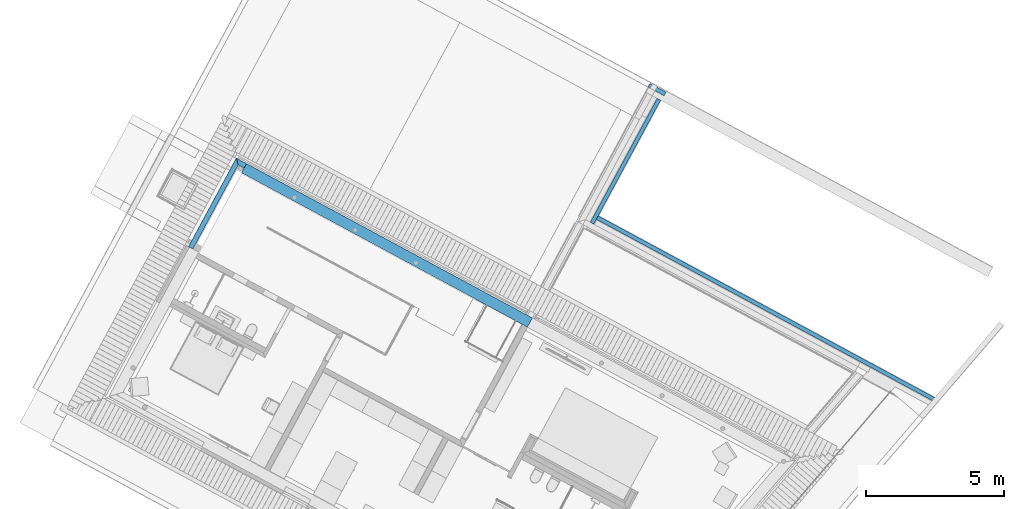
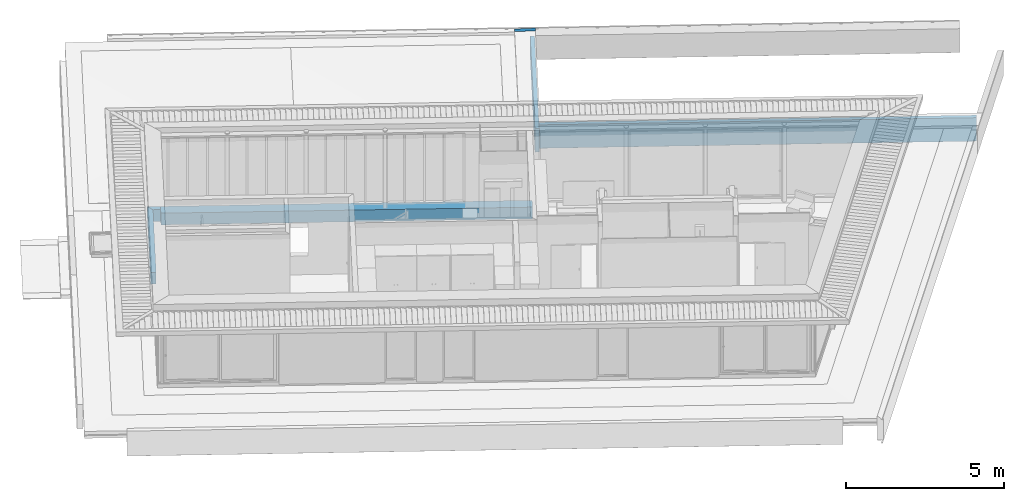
# One storey, part 5 of 41: 6 walls.
"""IFC2X3 building model written with IfcOpenShell, lengths in metres."""

from ifc_helpers import new_model, entity, si_unit, converted_unit, derived_unit, money_unit, direction, frame, origin_with_axes, place, context, subcontext, project, spatial, polyline, outline, extrude, boolean, faceted_brep, material, layer, layer_set, layer_usage, type_object, element, save


model = new_model("IFC2X3")

# Units and contexts
model_context = context("Model", 3, precision=1e-05, world=origin_with_axes(), true_north=direction((0.0, 1.0)))
body_context = subcontext(model_context, "Body", "Model", "MODEL_VIEW")
ifc_project = project(units=[si_unit("LENGTHUNIT", "METRE"), si_unit("AREAUNIT", "SQUARE_METRE"), si_unit("VOLUMEUNIT", "CUBIC_METRE"), converted_unit("PLANEANGLEUNIT", "DEGREE", entity("IfcPlaneAngleMeasure", 0.0174532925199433), si_unit("PLANEANGLEUNIT", "RADIAN"), dimensions=[0, 0, 0, 0, 0, 0, 0]), money_unit("EUR"), converted_unit("TIMEUNIT", "Year", entity("IfcTimeMeasure", 31556926.0), si_unit("TIMEUNIT", "SECOND"), dimensions=[0, 0, 1, 0, 0, 0, 0]), si_unit("MASSUNIT", "GRAM", prefix="KILO"), si_unit("THERMODYNAMICTEMPERATUREUNIT", "DEGREE_CELSIUS"), si_unit("LUMINOUSINTENSITYUNIT", "LUMEN"), si_unit("ENERGYUNIT", "JOULE", prefix="MEGA"), derived_unit("THERMALCONDUCTANCEUNIT", [(si_unit("POWERUNIT", "WATT"), 1), (si_unit("LENGTHUNIT", "METRE"), -1), (si_unit("THERMODYNAMICTEMPERATUREUNIT", "KELVIN"), -1)]), derived_unit("SPECIFICHEATCAPACITYUNIT", [(si_unit("ENERGYUNIT", "JOULE"), 1), (si_unit("MASSUNIT", "GRAM", prefix="KILO"), -1), (si_unit("THERMODYNAMICTEMPERATUREUNIT", "KELVIN"), -1)]), derived_unit("MASSDENSITYUNIT", [(si_unit("MASSUNIT", "GRAM", prefix="KILO"), 1), (si_unit("VOLUMEUNIT", "CUBIC_METRE"), -1)])], contexts=[model_context])

# Site, building, storey
site_placement = place(None, frame((-3.949935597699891, 1.740105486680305, 0.0), z_axis=(0.0, 0.0, 1.0), x_axis=(0.8799804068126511, -0.475009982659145, 0.0)))
site = spatial("IfcSite", under=ifc_project, at=site_placement, Name="Gelände", CompositionType="ELEMENT")
building_placement = place(site_placement, origin_with_axes())
building = spatial("IfcBuilding", under=site, at=building_placement, Name="Gebäude", CompositionType="ELEMENT")
storey_placement = place(building_placement, frame((0.0, 0.0, 4.55), z_axis=(0.0, 0.0, 1.0), x_axis=(1.0, 0.0, 0.0)))
storey = spatial("IfcBuildingStorey", under=building, at=storey_placement, Name="Staffelgeschoss", CompositionType="ELEMENT", Elevation=4.55)

# Walls
ifc_material_1 = material(Name="_SIWH - Dämmung, weich Mineralwolle")
ifc_layer_1 = layer(ifc_material_1, 0.18, ventilated="UNKNOWN")
ifc_material_2 = material(Name="_SIWH - Beton, Stahlbeton")
ifc_layer_2 = layer(ifc_material_2, 0.2, ventilated="UNKNOWN")
ifc_layer_set_1 = layer_set([ifc_layer_1, ifc_layer_2], Name="_SIWH - WA | Stb. 20+WD 18 | 38cm")
ifc_layer_usage_1 = layer_usage(ifc_layer_set_1, "AXIS2", "POSITIVE", -0.18)
wall_type_1 = type_object("IfcWallType", Name="_SIWH - WA | Stb. 20+WD 18 | 38cm 380", PredefinedType="NOTDEFINED")
wall_1_placement = place(storey_placement, frame((17.36749037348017, 10.85780061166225, -0.4500000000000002), z_axis=(0.0, 0.0, 1.0), x_axis=(-1.0, 0.0, 0.0)))
element("IfcWallStandardCase", 1, at=wall_1_placement, inside=storey, type_object=wall_type_1, material=ifc_layer_usage_1, Name="A-Wand051", ObjectType="NOTDEFINED", context=body_context, shape_type="SweptSolid", body=[
    extrude(outline(polyline([(0.0, -0.1799999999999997), (11.77000893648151, -0.1799999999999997), (11.77000893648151, 0.2000000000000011), (0.0, 0.2000000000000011), (0.0, -0.1799999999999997)])), origin_with_axes(), (0.0, 0.0, 1.0), 0.4500000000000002),
])
ifc_material_3 = material(Name="_SIWH - Dämmung, weich Mineralwolle, hohe Priorität")
ifc_layer_3 = layer(ifc_material_3, 0.18, ventilated="UNKNOWN")
ifc_layer_set_2 = layer_set([ifc_layer_3], Name="_SIWH - Dämmung, weich Mineralwolle, hohe Priorität 0.18")
ifc_layer_usage_2 = layer_usage(ifc_layer_set_2, "AXIS2", "NEGATIVE", 0.0)
wall_type_2 = type_object("IfcWallType", Name="_SIWH - Dämmung, weich Mineralwolle, hohe Priorität 180", PredefinedType="NOTDEFINED")
wall_2_placement = place(storey_placement, frame((5.357481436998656, 10.85780061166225, -0.4500000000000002), z_axis=(0.0, 0.0, 1.0), x_axis=(0.0, -1.0, 0.0)))
element("IfcWallStandardCase", 2, at=wall_2_placement, inside=storey, type_object=wall_type_2, material=ifc_layer_usage_2, Name="A-Wand065", ObjectType="NOTDEFINED", context=body_context, shape_type="SweptSolid", body=[
    extrude(outline(polyline([(-0.1800000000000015, -0.1799999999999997), (3.464741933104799, -0.1799999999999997), (3.464741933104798, 0.0), (0.0, 0.0), (-0.1800000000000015, -0.1799999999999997)])), origin_with_axes(), (0.0, 0.0, 1.0), 0.4500000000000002),
])
ifc_material_4 = material(Name="_SIWH - Metall, Aluminium")
wall_type_3 = type_object("IfcWallType", Name="_SIWH - Attikablech2 Achse3 EG 660 x 65", PredefinedType="NOTDEFINED")
wall_3_placement = place(storey_placement, frame((17.36746820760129, 20.38528216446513, -0.3999999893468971), z_axis=(0.0, 0.0, 1.0), x_axis=(-4.180477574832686e-06, 0.9999999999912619, 0.0)))
element("IfcWall", 3, at=wall_3_placement, inside=storey, type_object=wall_type_3, material=ifc_material_4, Name="Wand-028", ObjectType="NOTDEFINED", context=body_context, shape_type="SweptSolid", body=[
    extrude(outline(polyline([(0.3699999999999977, 0.334999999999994), (0.3699999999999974, 0.3999999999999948), (-0.2900000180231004, 0.3768999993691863), (-0.2900000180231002, 0.334999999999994), (-0.2880000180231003, 0.334999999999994), (-0.2880000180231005, 0.3749687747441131), (0.3679999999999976, 0.3979287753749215), (0.3679999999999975, 0.334999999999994), (0.3699999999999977, 0.334999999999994)])), frame((0.0, 0.0, 0.0), z_axis=(-1.0, 0.0, 0.0), x_axis=(0.0, -1.0, 0.0)), (0.0, 0.0, -1.0), 0.1481523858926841),
])
ifc_material_5 = material(Name="_SIWH - Beton, Stahlbeton Fertigteil")
wall_type_4 = type_object("IfcWallType", Name="_SIWH - Terrasse Luftbalken 140 x 915", PredefinedType="NOTDEFINED")
wall_4_placement = place(storey_placement, frame((17.36746820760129, 20.18527610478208, -0.3999999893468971), z_axis=(0.0, 0.0, 1.0), x_axis=(0.0, -1.0, 0.0)))
element("IfcWall", 4, at=wall_4_placement, inside=storey, type_object=wall_type_4, material=ifc_material_5, Name="Wand-027", ObjectType="NOTDEFINED", context=body_context, shape_type="SweptSolid", body=[
    extrude(outline(polyline([(0.3400000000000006, 0.3349999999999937), (0.2, 0.3349999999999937), (0.2000000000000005, -0.5699999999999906), (0.2100000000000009, -0.5799999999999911), (0.2550000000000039, -0.5799999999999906), (0.2700000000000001, -0.5799999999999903), (0.2849999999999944, -0.5799999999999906), (0.330000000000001, -0.5799999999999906), (0.340000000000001, -0.5699999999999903), (0.3400000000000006, 0.3349999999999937)])), frame((0.0, 0.0, 0.0), z_axis=(1.0, 0.0, 0.0), x_axis=(0.0, 1.0, 0.0)), (0.0, 0.0, 1.0), 5.102229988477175),
])
wall_5_placement = place(storey_placement, frame((17.36746820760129, 15.0830461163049, -0.3999999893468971), z_axis=(0.0, 0.0, 1.0), x_axis=(1.0, 0.0, 0.0)))
element("IfcWall", 5, at=wall_5_placement, inside=storey, type_object=wall_type_4, material=ifc_material_5, Name="Wand-027", ObjectType="NOTDEFINED", context=body_context, shape_type="CSG", body=[
    boolean("DIFFERENCE", extrude(outline(polyline([(0.3400000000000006, 0.3349999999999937), (0.2, 0.3349999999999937), (0.2000000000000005, -0.5699999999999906), (0.2100000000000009, -0.5799999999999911), (0.2550000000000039, -0.5799999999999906), (0.2700000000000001, -0.5799999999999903), (0.2849999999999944, -0.5799999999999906), (0.330000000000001, -0.5799999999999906), (0.340000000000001, -0.5699999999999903), (0.3400000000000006, 0.3349999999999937)])), frame((0.0, 0.0, 0.0), z_axis=(1.0, 0.0, 0.0), x_axis=(0.0, 1.0, 0.0)), (0.0, 0.0, 1.0), 14.19049326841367), faceted_brep([(0.3399999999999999, 0.2000000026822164, 0.3349999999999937), (0.3399999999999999, 0.3399999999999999, 0.3349999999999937), (0.0, 0.3399999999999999, 0.3349999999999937), (0.0, 0.1999999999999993, 0.3349999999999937), (0.3399999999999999, 0.3400000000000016, -0.5699999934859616), (0.3399999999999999, 0.2000000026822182, -0.5699999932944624), (0.0, 0.3400000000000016, -0.5699999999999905), (0.0, 0.3300000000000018, -0.5799999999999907), (0.0, 0.2849999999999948, -0.5799999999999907), (0.0, 0.2699999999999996, -0.5799999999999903), (0.0, 0.2550000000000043, -0.5799999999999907), (0.0, 0.2100000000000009, -0.5799999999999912), (0.0, 0.2000000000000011, -0.5699999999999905), (0.3300000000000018, 0.3300000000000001, -0.5799999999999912), (0.3300000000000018, 0.2099999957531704, -0.5799999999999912), (0.3300000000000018, 0.2550000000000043, -0.5799999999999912), (0.3300000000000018, 0.2699999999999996, -0.5799999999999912), (0.3300000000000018, 0.2849999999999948, -0.5799999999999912)], [[[0, 1, 2, 3]], [[4, 1, 0, 5]], [[1, 4, 6, 2]], [[3, 2, 6, 7, 8, 9, 10, 11, 12]], [[5, 0, 3, 12]], [[13, 4, 5, 14, 15, 16, 17]], [[4, 13, 7, 6]], [[13, 17, 8, 7]], [[17, 16, 9, 8]], [[16, 15, 10, 9]], [[15, 14, 11, 10]], [[14, 5, 12, 11]]])),
])
ifc_layer_4 = layer(ifc_material_1, 0.18, ventilated="UNKNOWN")
ifc_layer_set_3 = layer_set([ifc_layer_4], Name="_SIWH - Dämmung, weich Mineralwolle 0.18")
ifc_layer_usage_3 = layer_usage(ifc_layer_set_3, "AXIS2", "NEGATIVE", 0.0)
wall_type_5 = type_object("IfcWallType", Name="_SIWH - Dämmung, weich Mineralwolle 180", PredefinedType="NOTDEFINED")
wall_6_placement = place(storey_placement, frame((5.597481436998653, 10.85780061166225, -0.4500000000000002), z_axis=(0.0, 0.0, 1.0), x_axis=(-1.0, 0.0, 0.0)))
element("IfcWallStandardCase", 6, at=wall_6_placement, inside=storey, type_object=wall_type_5, material=ifc_layer_usage_3, Name="A-Wand066", ObjectType="NOTDEFINED", context=body_context, shape_type="SweptSolid", body=[
    extrude(outline(polyline([(0.0, -0.1799999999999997), (0.4199999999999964, -0.1799999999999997), (0.2399999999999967, 0.0), (0.0, 0.0), (0.0, -0.1799999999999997)])), origin_with_axes(), (0.0, 0.0, 1.0), 0.4500000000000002),
])

save(model, "model.ifc")
